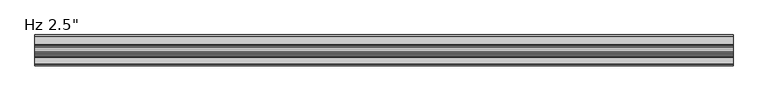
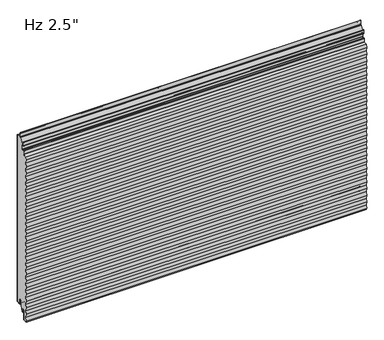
"""IFC4 building model written with IfcOpenShell, lengths in millimetres: plate geometry."""

from ifc_helpers import new_model, si_unit, point, frame, frame_2d, origin, place, context, project, spatial, polyline, circle_curve, ellipse_curve, trimmed, segment, composite_curve, outline, extrude, source, transform, mapped, element, save
from ifc_brep_helpers import plane_surface, cylinder_surface, revolved_surface, extruded_surface, advanced_brep


def plate_3a640c50(model_context):
    return source(origin(), model_context, "Body", "SolidModel", [
        extrude(outline(composite_curve([segment(trimmed(circle_curve(frame_2d((-21.43125, 19.05)), 4.96875), [point((-16.4625, 19.05))], [point((-26.4, 19.05))], True, "CARTESIAN"), True, "CONTINUOUS"), segment(polyline([(-26.4, 19.05), (-26.4, -3.1323422), (-36.5157227, -23.01875), (-38.1, -23.01875), (-38.1, -13.5080174), (-38.89375, -13.5080174), (-38.6875, -11.9205174)]), True, "CONTINUOUS"), segment(trimmed(circle_curve(frame_2d((-43.65625, -11.9205174)), 4.96875), [point((-38.6875, -11.9205174))], [point((-48.625, -11.9205174))], True, "CARTESIAN"), True, "CONTINUOUS"), segment(polyline([(-48.625, -11.9205174), (-48.625, -50.1038221)]), True, "CONTINUOUS"), segment(trimmed(circle_curve(frame_2d((-50.00625, -50.1038221)), 1.38125), [point((-48.625, -50.1038221))], [point((-49.933961, -51.4831791))], False, "CARTESIAN"), True, "CONTINUOUS"), segment(polyline([(-49.933961, -51.4831791), (-63.1062471, -52.1735094), (-63.6378194, -48.8511825), (-61.1994194, -33.6111825), (-63.6378194, -18.3711825), (-61.1994194, -3.1311825), (-63.6378194, 12.1088175), (-61.1994194, 27.3488175), (-63.6378194, 42.5888175), (-61.1994194, 57.8288175), (-63.6378194, 73.0688175), (-61.1994194, 88.3088175), (-63.6378194, 103.5488175), (-61.1994194, 118.7888175), (-63.6378194, 134.0288175), (-61.1994194, 149.2688175), (-63.6378194, 164.5088175), (-61.1994194, 179.7488175), (-63.6378194, 194.9888175), (-61.1994194, 210.2288175), (-63.6378194, 225.4688175), (-61.1994194, 240.7088175), (-63.6378194, 255.9488175), (-61.1994194, 271.1888175), (-63.6378194, 286.4288175), (-61.1994194, 301.6688175), (-63.6378194, 316.9088175), (-61.1994194, 332.1488175), (-63.6378194, 347.3888175), (-61.1994194, 362.6288175), (-63.6378194, 377.8688175), (-61.1994194, 393.1088175), (-63.6378194, 408.3488175), (-61.1994194, 423.5888175), (-63.6378194, 438.8288175), (-61.1994194, 454.0688175), (-63.6378194, 469.3088175), (-61.1994194, 484.5488175), (-63.6378194, 499.7888175), (-61.1994194, 515.0288175), (-63.6378194, 530.2688175), (-61.1994194, 545.5088175), (-63.6378194, 560.7488175), (-61.1994194, 575.9888175), (-63.6378194, 591.2288175), (-61.1994194, 606.4688175), (-63.6378194, 621.7088175), (-61.1994194, 636.9488175), (-63.6378194, 652.1888175), (-61.1994194, 667.4288175), (-63.6378194, 682.6688175), (-61.6326745, 695.2009726), (-47.4895807, 695.9421807)]), True, "CONTINUOUS"), segment(trimmed(circle_curve(frame_2d((-47.625, 698.5261347)), 2.5875), [point((-47.4895807, 695.9421807))], [point((-45.0375, 698.5261347))], True, "CARTESIAN"), True, "CONTINUOUS"), segment(polyline([(-45.0375, 698.5261347), (-45.0375, 712.6824411)]), True, "CONTINUOUS"), segment(trimmed(circle_curve(frame_2d((-43.65625, 712.6824411)), 1.38125), [point((-45.0375, 712.6824411))], [point((-43.728539, 714.0617981))], False, "CARTESIAN"), True, "CONTINUOUS"), segment(polyline([(-43.728539, 714.0617981), (-37.9645807, 714.3638744)]), True, "CONTINUOUS"), segment(trimmed(circle_curve(frame_2d((-38.1, 716.9478283)), 2.5875), [point((-37.9645807, 714.3638744))], [point((-35.5125, 716.9478283))], True, "CARTESIAN"), True, "CONTINUOUS"), segment(polyline([(-35.5125, 716.9478283), (-35.5125, 739.3892934), (-24.9057308, 760.20625), (-2.38125, 760.20625)]), True, "CONTINUOUS"), segment(trimmed(circle_curve(frame_2d((-2.38125, 758.825)), 1.38125), [point((-2.38125, 760.20625))], [point((-1.0, 758.825))], False, "CARTESIAN"), True, "CONTINUOUS"), segment(polyline([(-1.0, 758.825), (-1.0, 3.175)]), True, "CONTINUOUS"), segment(trimmed(circle_curve(frame_2d((-2.38125, 3.175)), 1.38125), [point((-1.0, 3.175))], [point((-2.38125, 1.79375))], False, "CARTESIAN"), True, "CONTINUOUS"), segment(polyline([(-2.38125, 1.79375), (-15.08125, 1.79375)]), True, "CONTINUOUS"), segment(trimmed(circle_curve(frame_2d((-15.08125, 3.175)), 1.38125), [point((-15.08125, 1.79375))], [point((-16.4625, 3.175))], False, "CARTESIAN"), True, "CONTINUOUS"), segment(polyline([(-16.4625, 3.175), (-16.4625, 19.05)]), True, "CONTINUOUS")], self_intersect=False)), frame((-730.0, 0.0, 0.0), z_axis=(1.0, 0.0, 0.0), x_axis=(0.0, 1.0, 0.0)), (0.0, 0.0, 1.0), 1460.0),
        extrude(outline(composite_curve([segment(polyline([(-25.4, 0.79375), (-26.4, 0.79375), (-26.4, 19.05)]), True, "CONTINUOUS"), segment(trimmed(circle_curve(frame_2d((-21.43125, 19.05)), 4.96875), [point((-26.4, 19.05))], [point((-16.4625, 19.05))], False, "CARTESIAN"), True, "CONTINUOUS"), segment(polyline([(-16.4625, 19.05), (-16.4625, 3.175)]), True, "CONTINUOUS"), segment(trimmed(circle_curve(frame_2d((-15.08125, 3.175)), 1.38125), [point((-16.4625, 3.175))], [point((-15.08125, 1.79375))], True, "CARTESIAN"), True, "CONTINUOUS"), segment(polyline([(-15.08125, 1.79375), (-2.38125, 1.79375)]), True, "CONTINUOUS"), segment(trimmed(circle_curve(frame_2d((-2.38125, 3.175)), 1.38125), [point((-2.38125, 1.79375))], [point((-1.0, 3.175))], True, "CARTESIAN"), True, "CONTINUOUS"), segment(polyline([(-1.0, 3.175), (-1.0, 758.825)]), True, "CONTINUOUS"), segment(trimmed(circle_curve(frame_2d((-2.38125, 758.825)), 1.38125), [point((-1.0, 758.825))], [point((-2.38125, 760.20625))], True, "CARTESIAN"), True, "CONTINUOUS"), segment(polyline([(-2.38125, 760.20625), (-19.446875, 760.20625)]), True, "CONTINUOUS"), segment(trimmed(circle_curve(frame_2d((-19.446875, 762.79375)), 2.5875), [point((-19.446875, 760.20625))], [point((-22.034375, 762.79375))], False, "CARTESIAN"), True, "CONTINUOUS"), segment(polyline([(-22.034375, 762.79375), (-22.034375, 780.25625), (-21.034375, 780.25625), (-21.034375, 762.79375)]), True, "CONTINUOUS"), segment(trimmed(circle_curve(frame_2d((-19.446875, 762.79375)), 1.5875), [point((-21.034375, 762.79375))], [point((-19.446875, 761.20625))], True, "CARTESIAN"), True, "CONTINUOUS"), segment(polyline([(-19.446875, 761.20625), (-2.38125, 761.20625)]), True, "CONTINUOUS"), segment(trimmed(circle_curve(frame_2d((-2.38125, 758.825)), 2.38125), [point((-2.38125, 761.20625))], [point((0.0, 758.825))], False, "CARTESIAN"), True, "CONTINUOUS"), segment(polyline([(0.0, 758.825), (0.0, 3.175)]), True, "CONTINUOUS"), segment(trimmed(circle_curve(frame_2d((-2.38125, 3.175)), 2.38125), [point((0.0, 3.175))], [point((-2.38125, 0.79375))], False, "CARTESIAN"), True, "CONTINUOUS"), segment(polyline([(-2.38125, 0.79375), (-15.08125, 0.79375)]), True, "CONTINUOUS"), segment(trimmed(circle_curve(frame_2d((-15.08125, 3.175)), 2.38125), [point((-15.08125, 0.79375))], [point((-17.4625, 3.175))], False, "CARTESIAN"), True, "CONTINUOUS"), segment(polyline([(-17.4625, 3.175), (-17.4625, 19.05)]), True, "CONTINUOUS"), segment(trimmed(circle_curve(frame_2d((-21.43125, 19.05)), 3.96875), [point((-17.4625, 19.05))], [point((-25.4, 19.05))], True, "CARTESIAN"), True, "CONTINUOUS"), segment(polyline([(-25.4, 19.05), (-25.4, 0.79375)]), True, "CONTINUOUS")], self_intersect=False)), frame((-730.0, 0.0, 0.0), z_axis=(1.0, 0.0, 0.0), x_axis=(0.0, 1.0, 0.0)), (0.0, 0.0, 1.0), 1460.0),
        advanced_brep(
        [(-730.0, -38.1, -23.2314549), (-730.0, -39.6875, -23.2314549), (-730.0, -39.6875, -11.9205174), (-730.0, -47.625, -11.9205174), (-730.0, -47.625, -50.1038221), (-730.0, -49.881625, -52.4818086), (-730.0, -64.0543553, -53.22457), (-730.0, -64.7509395, -48.8709186), (-730.0, -62.3125395, -33.6309186), (-730.0, -64.7509395, -18.3909186), (-730.0, -62.3125395, -3.1509186), (-730.0, -64.7509395, 12.0890814), (-730.0, -62.3125395, 27.3290814), (-730.0, -64.7509395, 42.5690814), (-730.0, -62.3125395, 57.8090814), (-730.0, -64.7509395, 73.0490814), (-730.0, -62.3125395, 88.2890814), (-730.0, -64.7509395, 103.5290814), (-730.0, -62.3125395, 118.7690814), (-730.0, -64.7509395, 134.0090814), (-730.0, -62.3125395, 149.2490814), (-730.0, -64.7509395, 164.4890814), (-730.0, -62.3125395, 179.7290814), (-730.0, -64.7509395, 194.9690814), (-730.0, -62.3125395, 210.2090814), (-730.0, -64.7509395, 225.4490814), (-730.0, -62.3125395, 240.6890814), (-730.0, -64.7509395, 255.9290814), (-730.0, -62.3125395, 271.1690814), (-730.0, -64.7509395, 286.4090814), (-730.0, -62.3125395, 301.6490814), (-730.0, -64.7509395, 316.8890814), (-730.0, -62.3125395, 332.1290814), (-730.0, -64.7509395, 347.3690814), (-730.0, -62.3125395, 362.6090814), (-730.0, -64.7509395, 377.8490814), (-730.0, -62.3125395, 393.0890814), (-730.0, -64.7509395, 408.3290814), (-730.0, -62.3125395, 423.5690814), (-730.0, -64.7509395, 438.8090814), (-730.0, -62.3125395, 454.0490814), (-730.0, -64.7509395, 469.2890814), (-730.0, -62.3125395, 484.5290814), (-730.0, -64.7509395, 499.7690814), (-730.0, -62.3125395, 515.0090814), (-730.0, -64.7509395, 530.2490814), (-730.0, -62.3125395, 545.4890814), (-730.0, -64.7509395, 560.7290814), (-730.0, -62.3125395, 575.9690814), (-730.0, -64.7509395, 591.2090814), (-730.0, -62.3125395, 606.4490814), (-730.0, -64.7509395, 621.6890814), (-730.0, -62.3125395, 636.9290814), (-730.0, -64.7509395, 652.1690814), (-730.0, -62.3125395, 667.4090814), (-730.0, -64.7428368, 682.5984395), (-730.0, -62.574106, 696.1530066), (-730.0, -47.5419167, 696.9408103), (-730.0, -46.0375, 698.5261347), (-730.0, -46.0375, 712.6824411), (-730.0, -43.780875, 715.0604276), (-730.0, -38.0169167, 715.3625039), (-730.0, -36.5125, 716.9478283), (-730.0, -36.5125, 731.8232326), (-730.0, -38.1, 733.4107326), (-730.0, -42.2671875, 733.4107326), (-730.0, -44.6484375, 735.7919826), (-730.0, -44.6484375, 750.2836032), (-730.0, -42.8546875, 750.2836032), (-730.0, -42.8546875, 740.5544826), (-730.0, -43.6484375, 740.5544826), (-730.0, -43.6484375, 735.7919826), (-730.0, -42.2671875, 734.4107326), (-730.0, -38.1, 734.4107326), (-730.0, -35.5125, 731.8232326), (-730.0, -35.5125, 716.9478283), (-730.0, -37.9645807, 714.3638744), (-730.0, -43.728539, 714.0617981), (-730.0, -45.0375, 712.6824411), (-730.0, -45.0375, 698.5261347), (-730.0, -47.4895807, 695.9421807), (-730.0, -61.7143976, 695.1966897), (-730.0, -63.7301177, 682.5984395), (-730.0, -61.2998204, 667.4090814), (-730.0, -63.7382204, 652.1690814), (-730.0, -61.2998204, 636.9290814), (-730.0, -63.7382204, 621.6890814), (-730.0, -61.2998204, 606.4490814), (-730.0, -63.7382204, 591.2090814), (-730.0, -61.2998204, 575.9690814), (-730.0, -63.7382204, 560.7290814), (-730.0, -61.2998204, 545.4890814), (-730.0, -63.7382204, 530.2490814), (-730.0, -61.2998204, 515.0090814), (-730.0, -63.7382204, 499.7690814), (-730.0, -61.2998204, 484.5290814), (-730.0, -63.7382204, 469.2890814), (-730.0, -61.2998204, 454.0490814), (-730.0, -63.7382204, 438.8090814), (-730.0, -61.2998204, 423.5690814), (-730.0, -63.7382204, 408.3290814), (-730.0, -61.2998204, 393.0890814), (-730.0, -63.7382204, 377.8490814), (-730.0, -61.2998204, 362.6090814), (-730.0, -63.7382204, 347.3690814), (-730.0, -61.2998204, 332.1290814), (-730.0, -63.7382204, 316.8890814), (-730.0, -61.2998204, 301.6490814), (-730.0, -63.7382204, 286.4090814), (-730.0, -61.2998204, 271.1690814), (-730.0, -63.7382204, 255.9290814), (-730.0, -61.2998204, 240.6890814), (-730.0, -63.7382204, 225.4490814), (-730.0, -61.2998204, 210.2090814), (-730.0, -63.7382204, 194.9690814), (-730.0, -61.2998204, 179.7290814), (-730.0, -63.7382204, 164.4890814), (-730.0, -61.2998204, 149.2490814), (-730.0, -63.7382204, 134.0090814), (-730.0, -61.2998204, 118.7690814), (-730.0, -63.7382204, 103.5290814), (-730.0, -61.2998204, 88.2890814), (-730.0, -63.7382204, 73.0490814), (-730.0, -61.2998204, 57.8090814), (-730.0, -63.7382204, 42.5690814), (-730.0, -61.2998204, 27.3290814), (-730.0, -63.7382204, 12.0890814), (-730.0, -61.2998204, -3.1509186), (-730.0, -63.7382204, -18.3909186), (-730.0, -61.2998204, -33.6309186), (-730.0, -63.7382204, -48.8709186), (-730.0, -63.2089447, -52.1788915), (-730.0, -49.933961, -51.4831791), (-730.0, -48.625, -50.1038221), (-730.0, -48.625, -11.9205174), (-730.0, -38.6875, -11.9205174), (-730.0, -38.89375, -13.5080174), (-730.0, -38.1, -13.5080174), (730.0, -38.1, -23.2314549), (730.0, -38.1, -13.5080174), (730.0, -38.89375, -13.5080174), (730.0, -38.6875, -11.9205174), (730.0, -48.625, -11.9205174), (730.0, -48.625, -50.1038221), (730.0, -49.933961, -51.4831791), (730.0, -63.2089447, -52.1788915), (730.0, -63.7382204, -48.8709186), (730.0, -61.2998204, -33.6309186), (730.0, -63.7382204, -18.3909186), (730.0, -61.2998204, -3.1509186), (730.0, -63.7382204, 12.0890814), (730.0, -61.2998204, 27.3290814), (730.0, -63.7382204, 42.5690814), (730.0, -61.2998204, 57.8090814), (730.0, -63.7382204, 73.0490814), (730.0, -61.2998204, 88.2890814), (730.0, -63.7382204, 103.5290814), (730.0, -61.2998204, 118.7690814), (730.0, -63.7382204, 134.0090814), (730.0, -61.2998204, 149.2490814), (730.0, -63.7382204, 164.4890814), (730.0, -61.2998204, 179.7290814), (730.0, -63.7382204, 194.9690814), (730.0, -61.2998204, 210.2090814), (730.0, -63.7382204, 225.4490814), (730.0, -61.2998204, 240.6890814), (730.0, -63.7382204, 255.9290814), (730.0, -61.2998204, 271.1690814), (730.0, -63.7382204, 286.4090814), (730.0, -61.2998204, 301.6490814), (730.0, -63.7382204, 316.8890814), (730.0, -61.2998204, 332.1290814), (730.0, -63.7382204, 347.3690814), (730.0, -61.2998204, 362.6090814), (730.0, -63.7382204, 377.8490814), (730.0, -61.2998204, 393.0890814), (730.0, -63.7382204, 408.3290814), (730.0, -61.2998204, 423.5690814), (730.0, -63.7382204, 438.8090814), (730.0, -61.2998204, 454.0490814), (730.0, -63.7382204, 469.2890814), (730.0, -61.2998204, 484.5290814), (730.0, -63.7382204, 499.7690814), (730.0, -61.2998204, 515.0090814), (730.0, -63.7382204, 530.2490814), (730.0, -61.2998204, 545.4890814), (730.0, -63.7382204, 560.7290814), (730.0, -61.2998204, 575.9690814), (730.0, -63.7382204, 591.2090814), (730.0, -61.2998204, 606.4490814), (730.0, -63.7382204, 621.6890814), (730.0, -61.2998204, 636.9290814), (730.0, -63.7382204, 652.1690814), (730.0, -61.2998204, 667.4090814), (730.0, -63.7301177, 682.5984395), (730.0, -61.7143976, 695.1966897), (730.0, -47.4895807, 695.9421807), (730.0, -45.0375, 698.5261347), (730.0, -45.0375, 712.6824411), (730.0, -43.728539, 714.0617981), (730.0, -37.9645807, 714.3638744), (730.0, -35.5125, 716.9478283), (730.0, -35.5125, 731.8232326), (730.0, -38.1, 734.4107326), (730.0, -42.2671875, 734.4107326), (730.0, -43.6484375, 735.7919826), (730.0, -43.6484375, 740.5544826), (730.0, -42.8546875, 740.5544826), (730.0, -42.8546875, 750.2836032), (730.0, -44.6484375, 750.2836032), (730.0, -44.6484375, 735.7919826), (730.0, -42.2671875, 733.4107326), (730.0, -38.1, 733.4107326), (730.0, -36.5125, 731.8232326), (730.0, -36.5125, 716.9478283), (730.0, -38.0169167, 715.3625039), (730.0, -43.780875, 715.0604276), (730.0, -46.0375, 712.6824411), (730.0, -46.0375, 698.5261347), (730.0, -47.5419167, 696.9408103), (730.0, -62.574106, 696.1530066), (730.0, -64.7428368, 682.5984395), (730.0, -62.3125395, 667.4090814), (730.0, -64.7509395, 652.1690814), (730.0, -62.3125395, 636.9290814), (730.0, -64.7509395, 621.6890814), (730.0, -62.3125395, 606.4490814), (730.0, -64.7509395, 591.2090814), (730.0, -62.3125395, 575.9690814), (730.0, -64.7509395, 560.7290814), (730.0, -62.3125395, 545.4890814), (730.0, -64.7509395, 530.2490814), (730.0, -62.3125395, 515.0090814), (730.0, -64.7509395, 499.7690814), (730.0, -62.3125395, 484.5290814), (730.0, -64.7509395, 469.2890814), (730.0, -62.3125395, 454.0490814), (730.0, -64.7509395, 438.8090814), (730.0, -62.3125395, 423.5690814), (730.0, -64.7509395, 408.3290814), (730.0, -62.3125395, 393.0890814), (730.0, -64.7509395, 377.8490814), (730.0, -62.3125395, 362.6090814), (730.0, -64.7509395, 347.3690814), (730.0, -62.3125395, 332.1290814), (730.0, -64.7509395, 316.8890814), (730.0, -62.3125395, 301.6490814), (730.0, -64.7509395, 286.4090814), (730.0, -62.3125395, 271.1690814), (730.0, -64.7509395, 255.9290814), (730.0, -62.3125395, 240.6890814), (730.0, -64.7509395, 225.4490814), (730.0, -62.3125395, 210.2090814), (730.0, -64.7509395, 194.9690814), (730.0, -62.3125395, 179.7290814), (730.0, -64.7509395, 164.4890814), (730.0, -62.3125395, 149.2490814), (730.0, -64.7509395, 134.0090814), (730.0, -62.3125395, 118.7690814), (730.0, -64.7509395, 103.5290814), (730.0, -62.3125395, 88.2890814), (730.0, -64.7509395, 73.0490814), (730.0, -62.3125395, 57.8090814), (730.0, -64.7509395, 42.5690814), (730.0, -62.3125395, 27.3290814), (730.0, -64.7509395, 12.0890814), (730.0, -62.3125395, -3.1509186), (730.0, -64.7509395, -18.3909186), (730.0, -62.3125395, -33.6309186), (730.0, -64.7509395, -48.8709186), (730.0, -64.0543553, -53.22457), (730.0, -49.881625, -52.4818086), (730.0, -47.625, -50.1038221), (730.0, -47.625, -11.9205174), (730.0, -39.6875, -11.9205174), (730.0, -39.6875, -23.2314549)],
        [
            (0, 1, circle_curve(frame((-730.0, -38.89375, -23.2314549), z_axis=(-1.0, 0.0, 0.0), x_axis=(0.0, 0.0, -1.0)), 0.79375)),
            (1, 2),
            (2, 3, circle_curve(frame((-730.0, -43.65625, -11.9205174), z_axis=(1.0, 0.0, 0.0), x_axis=(0.0, 0.0, -1.0)), 3.96875)),
            (3, 4),
            (4, 5, circle_curve(frame((-730.0, -50.00625, -50.1038221), z_axis=(-1.0, 0.0, 0.0), x_axis=(0.0, 0.0, -1.0)), 2.38125)),
            (5, 6),
            (6, 7),
            (7, 8),
            (8, 9),
            (9, 10),
            (10, 11),
            (11, 12),
            (12, 13),
            (13, 14),
            (14, 15),
            (15, 16),
            (16, 17),
            (17, 18),
            (18, 19),
            (19, 20),
            (20, 21),
            (21, 22),
            (22, 23),
            (23, 24),
            (24, 25),
            (25, 26),
            (26, 27),
            (27, 28),
            (28, 29),
            (29, 30),
            (30, 31),
            (31, 32),
            (32, 33),
            (33, 34),
            (34, 35),
            (35, 36),
            (36, 37),
            (37, 38),
            (38, 39),
            (39, 40),
            (40, 41),
            (41, 42),
            (42, 43),
            (43, 44),
            (44, 45),
            (45, 46),
            (46, 47),
            (47, 48),
            (48, 49),
            (49, 50),
            (50, 51),
            (51, 52),
            (52, 53),
            (53, 54),
            (54, 55),
            (55, 56),
            (56, 57),
            (57, 58, circle_curve(frame((-730.0, -47.625, 698.5261347), z_axis=(1.0, 0.0, 0.0), x_axis=(0.0, 0.0, -1.0)), 1.5875)),
            (58, 59),
            (59, 60, circle_curve(frame((-730.0, -43.65625, 712.6824411), z_axis=(-1.0, 0.0, 0.0), x_axis=(0.0, 0.0, -1.0)), 2.38125)),
            (60, 61),
            (61, 62, circle_curve(frame((-730.0, -38.1, 716.9478283), z_axis=(1.0, 0.0, 0.0), x_axis=(0.0, 0.0, -1.0)), 1.5875)),
            (62, 63),
            (63, 64, circle_curve(frame((-730.0, -38.1, 731.8232326), z_axis=(1.0, 0.0, 0.0), x_axis=(0.0, 0.0, -1.0)), 1.5875)),
            (64, 65),
            (65, 66, circle_curve(frame((-730.0, -42.2671875, 735.7919826), z_axis=(-1.0, 0.0, 0.0), x_axis=(0.0, 0.0, -1.0)), 2.38125)),
            (66, 67),
            (67, 68, ellipse_curve(frame((-730.0, -43.7515625, 750.2836032), z_axis=(-1.0, 0.0, 0.0), x_axis=(0.0, 1.0, 0.0)), 0.896875, 0.7852275)),
            (68, 69),
            (69, 70),
            (70, 71),
            (71, 72, circle_curve(frame((-730.0, -42.2671875, 735.7919826), z_axis=(1.0, 0.0, 0.0), x_axis=(0.0, 0.0, -1.0)), 1.38125)),
            (72, 73),
            (73, 74, circle_curve(frame((-730.0, -38.1, 731.8232326), z_axis=(-1.0, 0.0, 0.0), x_axis=(0.0, 0.0, -1.0)), 2.5875)),
            (74, 75),
            (75, 76, circle_curve(frame((-730.0, -38.1, 716.9478283), z_axis=(-1.0, 0.0, 0.0), x_axis=(0.0, 0.0, -1.0)), 2.5875)),
            (76, 77),
            (77, 78, circle_curve(frame((-730.0, -43.65625, 712.6824411), z_axis=(1.0, 0.0, 0.0), x_axis=(0.0, 0.0, -1.0)), 1.38125)),
            (78, 79),
            (79, 80, circle_curve(frame((-730.0, -47.625, 698.5261347), z_axis=(-1.0, 0.0, 0.0), x_axis=(0.0, 0.0, -1.0)), 2.5875)),
            (80, 81),
            (81, 82),
            (82, 83),
            (83, 84),
            (84, 85),
            (85, 86),
            (86, 87),
            (87, 88),
            (88, 89),
            (89, 90),
            (90, 91),
            (91, 92),
            (92, 93),
            (93, 94),
            (94, 95),
            (95, 96),
            (96, 97),
            (97, 98),
            (98, 99),
            (99, 100),
            (100, 101),
            (101, 102),
            (102, 103),
            (103, 104),
            (104, 105),
            (105, 106),
            (106, 107),
            (107, 108),
            (108, 109),
            (109, 110),
            (110, 111),
            (111, 112),
            (112, 113),
            (113, 114),
            (114, 115),
            (115, 116),
            (116, 117),
            (117, 118),
            (118, 119),
            (119, 120),
            (120, 121),
            (121, 122),
            (122, 123),
            (123, 124),
            (124, 125),
            (125, 126),
            (126, 127),
            (127, 128),
            (128, 129),
            (129, 130),
            (130, 131),
            (131, 132),
            (132, 133, circle_curve(frame((-730.0, -50.00625, -50.1038221), z_axis=(1.0, 0.0, 0.0), x_axis=(0.0, 0.0, -1.0)), 1.38125)),
            (133, 134),
            (134, 135, circle_curve(frame((-730.0, -43.65625, -11.9205174), z_axis=(-1.0, 0.0, 0.0), x_axis=(0.0, 0.0, -1.0)), 4.96875)),
            (135, 136),
            (136, 137),
            (137, 0),
            (138, 139),
            (139, 140),
            (140, 141),
            (141, 142, circle_curve(frame((730.0, -43.65625, -11.9205174), z_axis=(1.0, 0.0, 0.0), x_axis=(0.0, 0.0, -1.0)), 4.96875)),
            (142, 143),
            (143, 144, circle_curve(frame((730.0, -50.00625, -50.1038221), z_axis=(-1.0, 0.0, 0.0), x_axis=(0.0, 0.0, -1.0)), 1.38125)),
            (144, 145),
            (145, 146),
            (146, 147),
            (147, 148),
            (148, 149),
            (149, 150),
            (150, 151),
            (151, 152),
            (152, 153),
            (153, 154),
            (154, 155),
            (155, 156),
            (156, 157),
            (157, 158),
            (158, 159),
            (159, 160),
            (160, 161),
            (161, 162),
            (162, 163),
            (163, 164),
            (164, 165),
            (165, 166),
            (166, 167),
            (167, 168),
            (168, 169),
            (169, 170),
            (170, 171),
            (171, 172),
            (172, 173),
            (173, 174),
            (174, 175),
            (175, 176),
            (176, 177),
            (177, 178),
            (178, 179),
            (179, 180),
            (180, 181),
            (181, 182),
            (182, 183),
            (183, 184),
            (184, 185),
            (185, 186),
            (186, 187),
            (187, 188),
            (188, 189),
            (189, 190),
            (190, 191),
            (191, 192),
            (192, 193),
            (193, 194),
            (194, 195),
            (195, 196),
            (196, 197, circle_curve(frame((730.0, -47.625, 698.5261347), z_axis=(1.0, 0.0, 0.0), x_axis=(0.0, 0.0, -1.0)), 2.5875)),
            (197, 198),
            (198, 199, circle_curve(frame((730.0, -43.65625, 712.6824411), z_axis=(-1.0, 0.0, 0.0), x_axis=(0.0, 0.0, -1.0)), 1.38125)),
            (199, 200),
            (200, 201, circle_curve(frame((730.0, -38.1, 716.9478283), z_axis=(1.0, 0.0, 0.0), x_axis=(0.0, 0.0, -1.0)), 2.5875)),
            (201, 202),
            (202, 203, circle_curve(frame((730.0, -38.1, 731.8232326), z_axis=(1.0, 0.0, 0.0), x_axis=(0.0, 0.0, -1.0)), 2.5875)),
            (203, 204),
            (204, 205, circle_curve(frame((730.0, -42.2671875, 735.7919826), z_axis=(-1.0, 0.0, 0.0), x_axis=(0.0, 0.0, -1.0)), 1.38125)),
            (205, 206),
            (206, 207),
            (207, 208),
            (208, 209, ellipse_curve(frame((730.0, -43.7515625, 750.2836032), z_axis=(1.0, 0.0, 0.0), x_axis=(0.0, 1.0, 0.0)), 0.896875, 0.7852275)),
            (209, 210),
            (210, 211, circle_curve(frame((730.0, -42.2671875, 735.7919826), z_axis=(1.0, 0.0, 0.0), x_axis=(0.0, 0.0, -1.0)), 2.38125)),
            (211, 212),
            (212, 213, circle_curve(frame((730.0, -38.1, 731.8232326), z_axis=(-1.0, 0.0, 0.0), x_axis=(0.0, 0.0, -1.0)), 1.5875)),
            (213, 214),
            (214, 215, circle_curve(frame((730.0, -38.1, 716.9478283), z_axis=(-1.0, 0.0, 0.0), x_axis=(0.0, 0.0, -1.0)), 1.5875)),
            (215, 216),
            (216, 217, circle_curve(frame((730.0, -43.65625, 712.6824411), z_axis=(1.0, 0.0, 0.0), x_axis=(0.0, 0.0, -1.0)), 2.38125)),
            (217, 218),
            (218, 219, circle_curve(frame((730.0, -47.625, 698.5261347), z_axis=(-1.0, 0.0, 0.0), x_axis=(0.0, 0.0, -1.0)), 1.5875)),
            (219, 220),
            (220, 221),
            (221, 222),
            (222, 223),
            (223, 224),
            (224, 225),
            (225, 226),
            (226, 227),
            (227, 228),
            (228, 229),
            (229, 230),
            (230, 231),
            (231, 232),
            (232, 233),
            (233, 234),
            (234, 235),
            (235, 236),
            (236, 237),
            (237, 238),
            (238, 239),
            (239, 240),
            (240, 241),
            (241, 242),
            (242, 243),
            (243, 244),
            (244, 245),
            (245, 246),
            (246, 247),
            (247, 248),
            (248, 249),
            (249, 250),
            (250, 251),
            (251, 252),
            (252, 253),
            (253, 254),
            (254, 255),
            (255, 256),
            (256, 257),
            (257, 258),
            (258, 259),
            (259, 260),
            (260, 261),
            (261, 262),
            (262, 263),
            (263, 264),
            (264, 265),
            (265, 266),
            (266, 267),
            (267, 268),
            (268, 269),
            (269, 270),
            (270, 271),
            (271, 272, circle_curve(frame((730.0, -50.00625, -50.1038221), z_axis=(1.0, 0.0, 0.0), x_axis=(0.0, 0.0, -1.0)), 2.38125)),
            (272, 273),
            (273, 274, circle_curve(frame((730.0, -43.65625, -11.9205174), z_axis=(-1.0, 0.0, 0.0), x_axis=(0.0, 0.0, -1.0)), 3.96875)),
            (274, 275),
            (275, 138, circle_curve(frame((730.0, -38.89375, -23.2314549), z_axis=(1.0, 0.0, 0.0), x_axis=(0.0, 0.0, -1.0)), 0.79375)),
            (118, 158),
            (157, 119),
            (156, 120),
            (155, 121),
            (131, 145),
            (144, 132),
            (143, 133),
            (142, 134),
            (141, 135),
            (136, 140),
            (139, 137),
            (69, 207),
            (206, 70),
            (68, 208),
            (67, 209),
            (56, 220),
            (219, 57),
            (80, 196),
            (195, 81),
            (54, 222),
            (221, 55),
            (82, 194),
            (193, 83),
            (192, 84),
            (191, 85),
            (21, 255),
            (254, 22),
            (253, 23),
            (252, 24),
            (251, 25),
            (250, 26),
            (249, 27),
            (102, 174),
            (173, 103),
            (172, 104),
            (171, 105),
            (170, 106),
            (169, 107),
            (168, 108),
            (167, 109),
            (166, 110),
            (248, 28),
            (247, 29),
            (246, 30),
            (52, 224),
            (223, 53),
            (165, 111),
            (164, 112),
            (163, 113),
            (162, 114),
            (161, 115),
            (160, 116),
            (159, 117),
            (19, 257),
            (256, 20),
            (51, 225),
            (50, 226),
            (190, 86),
            (48, 228),
            (227, 49),
            (46, 230),
            (229, 47),
            (44, 232),
            (231, 45),
            (93, 183),
            (182, 94),
            (43, 233),
            (91, 185),
            (184, 92),
            (89, 187),
            (186, 90),
            (87, 189),
            (188, 88),
            (42, 234),
            (40, 236),
            (235, 41),
            (38, 238),
            (237, 39),
            (36, 240),
            (239, 37),
            (101, 175),
            (35, 241),
            (99, 177),
            (176, 100),
            (97, 179),
            (178, 98),
            (95, 181),
            (180, 96),
            (34, 242),
            (32, 244),
            (243, 33),
            (245, 31),
            (18, 258),
            (16, 260),
            (259, 17),
            (14, 262),
            (261, 15),
            (12, 264),
            (263, 13),
            (10, 266),
            (265, 11),
            (8, 268),
            (267, 9),
            (6, 270),
            (269, 7),
            (129, 147),
            (146, 130),
            (127, 149),
            (148, 128),
            (125, 151),
            (150, 126),
            (123, 153),
            (152, 124),
            (154, 122),
            (79, 197),
            (77, 199),
            (198, 78),
            (75, 201),
            (200, 76),
            (71, 205),
            (204, 72),
            (73, 203),
            (202, 74),
            (66, 210),
            (64, 212),
            (211, 65),
            (62, 214),
            (213, 63),
            (60, 216),
            (215, 61),
            (58, 218),
            (217, 59),
            (5, 271),
            (3, 273),
            (272, 4),
            (1, 275),
            (274, 2),
            (138, 0),
        ],
        [
            plane_surface(frame((-730.0, -63.5, 381.0), z_axis=(-1.0, 0.0, 0.0), x_axis=(0.0, -1.0, 0.0))),
            plane_surface(frame((730.0, -63.5, 381.0), z_axis=(1.0, 0.0, 0.0), x_axis=(0.0, -1.0, 0.0))),
            plane_surface(frame((-730.0, -61.2998204, 118.7690814), z_axis=(0.0, 0.9874406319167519, 0.1579905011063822), x_axis=(1.0, 0.0, 0.0))),
            plane_surface(frame((-730.0, -63.7382204, 103.5290814), z_axis=(0.0, 0.9874406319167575, -0.15799050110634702), x_axis=(1.0, 0.0, 0.0))),
            plane_surface(frame((-730.0, -61.2998204, 88.2890814), z_axis=(0.0, 0.987440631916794, 0.1579905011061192), x_axis=(1.0, 0.0, 0.0))),
            plane_surface(frame((-730.0, -49.933961, -51.4831791), z_axis=(0.0, -0.05233595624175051, 0.9986295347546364), x_axis=(1.0, 0.0, 0.0))),
            revolved_surface(polyline([(730.0, -50.00625, -51.485072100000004), (-730.0, -50.00625, -51.485072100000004)]), (-730.0, -50.00625, -50.1038221), (1.0, 0.0, 0.0)),
            plane_surface(frame((-730.0, -48.625, -11.9205174), z_axis=(0.0, -1.0, 0.0), x_axis=(1.0, 0.0, 0.0))),
            cylinder_surface(frame((-730.0, -43.65625, -11.9205174), z_axis=(-1.0, 0.0, 0.0), x_axis=(0.0, 0.0, -1.0)), 4.96875),
            plane_surface(frame((-730.0, -38.1, -13.5080174), z_axis=(0.0, 0.0, 1.0), x_axis=(1.0, 0.0, 0.0))),
            plane_surface(frame((-730.0, -38.89375, -13.5080174), z_axis=(0.0, 0.9916655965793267, -0.12883844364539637), x_axis=(1.0, 0.0, 0.0))),
            plane_surface(frame((-730.0, -43.6484375, 740.5544826), z_axis=(0.0, 0.0, -1.0), x_axis=(1.0, 0.0, 0.0))),
            plane_surface(frame((-730.0, -42.8546875, 740.5544826), z_axis=(0.0, 1.0, 0.0), x_axis=(1.0, 0.0, 0.0))),
            extruded_surface(trimmed(ellipse_curve(frame((-730.0, -43.7515625, 750.2836032), z_axis=(1.0, 0.0, 0.0), x_axis=(0.0, 1.0, 0.0)), 0.896875, 0.7852275), [point((-730.0, -42.8546875, 750.2836032))], [point((-730.0, -44.6484375, 750.2836032))], True, "CARTESIAN"), (1460.0, 0.0, 0.0), 1460.0),
            plane_surface(frame((-730.0, -47.5419167, 696.9408103), z_axis=(0.0, -0.052335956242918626, 0.9986295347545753), x_axis=(1.0, 0.0, 0.0))),
            plane_surface(frame((-730.0, -61.7143976, 695.1966897), z_axis=(0.0, 0.05233595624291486, -0.9986295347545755), x_axis=(1.0, 0.0, 0.0))),
            plane_surface(frame((-730.0, -64.7428368, 682.5984395), z_axis=(0.0, -0.9874406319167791, -0.15799050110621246), x_axis=(1.0, 0.0, 0.0))),
            plane_surface(frame((-730.0, -61.2998204, 667.4090814), z_axis=(0.0, 0.9874406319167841, 0.15799050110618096), x_axis=(1.0, 0.0, 0.0))),
            plane_surface(frame((-730.0, -63.7382204, 652.1690814), z_axis=(0.0, 0.9874406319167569, -0.15799050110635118), x_axis=(1.0, 0.0, 0.0))),
            plane_surface(frame((-730.0, -61.2998204, 636.9290814), z_axis=(0.0, 0.987440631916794, 0.15799050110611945), x_axis=(1.0, 0.0, 0.0))),
            plane_surface(frame((-730.0, -62.3125395, 179.7290814), z_axis=(0.0, -0.9874406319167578, 0.15799050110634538), x_axis=(1.0, 0.0, 0.0))),
            plane_surface(frame((-730.0, -64.7509395, 194.9690814), z_axis=(0.0, -0.9874406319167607, -0.15799050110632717), x_axis=(1.0, 0.0, 0.0))),
            plane_surface(frame((-730.0, -62.3125395, 210.2090814), z_axis=(0.0, -0.9874406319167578, 0.15799050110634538), x_axis=(1.0, 0.0, 0.0))),
            plane_surface(frame((-730.0, -64.7509395, 225.4490814), z_axis=(0.0, -0.9874406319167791, -0.15799050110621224), x_axis=(1.0, 0.0, 0.0))),
            plane_surface(frame((-730.0, -62.3125395, 240.6890814), z_axis=(0.0, -0.9874406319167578, 0.15799050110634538), x_axis=(1.0, 0.0, 0.0))),
            plane_surface(frame((-730.0, -64.7509395, 255.9290814), z_axis=(0.0, -0.9874406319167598, -0.15799050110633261), x_axis=(1.0, 0.0, 0.0))),
            plane_surface(frame((-730.0, -61.2998204, 362.6090814), z_axis=(0.0, 0.9874406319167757, 0.15799050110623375), x_axis=(1.0, 0.0, 0.0))),
            plane_surface(frame((-730.0, -63.7382204, 347.3690814), z_axis=(0.0, 0.9874406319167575, -0.15799050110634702), x_axis=(1.0, 0.0, 0.0))),
            plane_surface(frame((-730.0, -61.2998204, 332.1290814), z_axis=(0.0, 0.987440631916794, 0.1579905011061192), x_axis=(1.0, 0.0, 0.0))),
            plane_surface(frame((-730.0, -63.7382204, 316.8890814), z_axis=(0.0, 0.987440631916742, -0.15799050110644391), x_axis=(1.0, 0.0, 0.0))),
            plane_surface(frame((-730.0, -61.2998204, 301.6490814), z_axis=(0.0, 0.9874406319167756, 0.15799050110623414), x_axis=(1.0, 0.0, 0.0))),
            plane_surface(frame((-730.0, -63.7382204, 286.4090814), z_axis=(0.0, 0.9874406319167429, -0.15799050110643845), x_axis=(1.0, 0.0, 0.0))),
            plane_surface(frame((-730.0, -61.2998204, 271.1690814), z_axis=(0.0, 0.9874406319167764, 0.15799050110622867), x_axis=(1.0, 0.0, 0.0))),
            plane_surface(frame((-730.0, -63.7382204, 255.9290814), z_axis=(0.0, 0.9874406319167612, -0.1579905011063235), x_axis=(1.0, 0.0, 0.0))),
            plane_surface(frame((-730.0, -62.3125395, 271.1690814), z_axis=(0.0, -0.9874406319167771, 0.157990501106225), x_axis=(1.0, 0.0, 0.0))),
            plane_surface(frame((-730.0, -64.7509395, 286.4090814), z_axis=(0.0, -0.9874406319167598, -0.15799050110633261), x_axis=(1.0, 0.0, 0.0))),
            plane_surface(frame((-730.0, -62.3125395, 301.6490814), z_axis=(0.0, -0.9874406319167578, 0.15799050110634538), x_axis=(1.0, 0.0, 0.0))),
            plane_surface(frame((-730.0, -64.7509395, 652.1690814), z_axis=(0.0, -0.9874406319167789, -0.15799050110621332), x_axis=(1.0, 0.0, 0.0))),
            plane_surface(frame((-730.0, -62.3125395, 667.4090814), z_axis=(0.0, -0.9874406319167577, 0.15799050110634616), x_axis=(1.0, 0.0, 0.0))),
            plane_surface(frame((-730.0, -61.2998204, 240.6890814), z_axis=(0.0, 0.9874406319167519, 0.1579905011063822), x_axis=(1.0, 0.0, 0.0))),
            plane_surface(frame((-730.0, -63.7382204, 225.4490814), z_axis=(0.0, 0.9874406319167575, -0.15799050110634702), x_axis=(1.0, 0.0, 0.0))),
            plane_surface(frame((-730.0, -61.2998204, 210.2090814), z_axis=(0.0, 0.987440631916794, 0.1579905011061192), x_axis=(1.0, 0.0, 0.0))),
            plane_surface(frame((-730.0, -63.7382204, 194.9690814), z_axis=(0.0, 0.987440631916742, -0.15799050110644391), x_axis=(1.0, 0.0, 0.0))),
            plane_surface(frame((-730.0, -61.2998204, 179.7290814), z_axis=(0.0, 0.9874406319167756, 0.15799050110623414), x_axis=(1.0, 0.0, 0.0))),
            plane_surface(frame((-730.0, -63.7382204, 164.4890814), z_axis=(0.0, 0.9874406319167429, -0.15799050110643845), x_axis=(1.0, 0.0, 0.0))),
            plane_surface(frame((-730.0, -61.2998204, 149.2490814), z_axis=(0.0, 0.9874406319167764, 0.15799050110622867), x_axis=(1.0, 0.0, 0.0))),
            plane_surface(frame((-730.0, -63.7382204, 134.0090814), z_axis=(0.0, 0.9874406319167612, -0.1579905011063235), x_axis=(1.0, 0.0, 0.0))),
            plane_surface(frame((-730.0, -62.3125395, 149.2490814), z_axis=(0.0, -0.9874406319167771, 0.157990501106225), x_axis=(1.0, 0.0, 0.0))),
            plane_surface(frame((-730.0, -64.7509395, 164.4890814), z_axis=(0.0, -0.9874406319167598, -0.15799050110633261), x_axis=(1.0, 0.0, 0.0))),
            plane_surface(frame((-730.0, -62.574106, 696.1530066), z_axis=(0.0, -0.9874406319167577, 0.15799050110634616), x_axis=(1.0, 0.0, 0.0))),
            plane_surface(frame((-730.0, -62.3125395, 636.9290814), z_axis=(0.0, -0.9874406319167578, 0.15799050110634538), x_axis=(1.0, 0.0, 0.0))),
            plane_surface(frame((-730.0, -64.7509395, 621.6890814), z_axis=(0.0, -0.9874406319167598, -0.15799050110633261), x_axis=(1.0, 0.0, 0.0))),
            plane_surface(frame((-730.0, -63.7382204, 621.6890814), z_axis=(0.0, 0.9874406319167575, -0.15799050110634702), x_axis=(1.0, 0.0, 0.0))),
            plane_surface(frame((-730.0, -63.7301177, 682.5984395), z_axis=(0.0, 0.9874406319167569, -0.15799050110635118), x_axis=(1.0, 0.0, 0.0))),
            plane_surface(frame((-730.0, -64.7509395, 591.2090814), z_axis=(0.0, -0.9874406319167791, -0.15799050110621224), x_axis=(1.0, 0.0, 0.0))),
            plane_surface(frame((-730.0, -64.7509395, 560.7290814), z_axis=(0.0, -0.9874406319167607, -0.15799050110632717), x_axis=(1.0, 0.0, 0.0))),
            plane_surface(frame((-730.0, -62.3125395, 575.9690814), z_axis=(0.0, -0.9874406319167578, 0.15799050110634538), x_axis=(1.0, 0.0, 0.0))),
            plane_surface(frame((-730.0, -62.3125395, 606.4490814), z_axis=(0.0, -0.9874406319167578, 0.15799050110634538), x_axis=(1.0, 0.0, 0.0))),
            plane_surface(frame((-730.0, -64.7509395, 530.2490814), z_axis=(0.0, -0.9874406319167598, -0.15799050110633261), x_axis=(1.0, 0.0, 0.0))),
            plane_surface(frame((-730.0, -63.7382204, 499.7690814), z_axis=(0.0, 0.9874406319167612, -0.1579905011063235), x_axis=(1.0, 0.0, 0.0))),
            plane_surface(frame((-730.0, -62.3125395, 515.0090814), z_axis=(0.0, -0.9874406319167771, 0.157990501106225), x_axis=(1.0, 0.0, 0.0))),
            plane_surface(frame((-730.0, -62.3125395, 545.4890814), z_axis=(0.0, -0.9874406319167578, 0.15799050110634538), x_axis=(1.0, 0.0, 0.0))),
            plane_surface(frame((-730.0, -63.7382204, 530.2490814), z_axis=(0.0, 0.9874406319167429, -0.15799050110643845), x_axis=(1.0, 0.0, 0.0))),
            plane_surface(frame((-730.0, -63.7382204, 560.7290814), z_axis=(0.0, 0.987440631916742, -0.15799050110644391), x_axis=(1.0, 0.0, 0.0))),
            plane_surface(frame((-730.0, -61.2998204, 545.4890814), z_axis=(0.0, 0.9874406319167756, 0.15799050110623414), x_axis=(1.0, 0.0, 0.0))),
            plane_surface(frame((-730.0, -61.2998204, 515.0090814), z_axis=(0.0, 0.9874406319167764, 0.15799050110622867), x_axis=(1.0, 0.0, 0.0))),
            plane_surface(frame((-730.0, -63.7382204, 591.2090814), z_axis=(0.0, 0.9874406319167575, -0.15799050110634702), x_axis=(1.0, 0.0, 0.0))),
            plane_surface(frame((-730.0, -64.7509395, 499.7690814), z_axis=(0.0, -0.9874406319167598, -0.15799050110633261), x_axis=(1.0, 0.0, 0.0))),
            plane_surface(frame((-730.0, -61.2998204, 606.4490814), z_axis=(0.0, 0.9874406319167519, 0.1579905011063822), x_axis=(1.0, 0.0, 0.0))),
            plane_surface(frame((-730.0, -61.2998204, 575.9690814), z_axis=(0.0, 0.987440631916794, 0.1579905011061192), x_axis=(1.0, 0.0, 0.0))),
            plane_surface(frame((-730.0, -64.7509395, 469.2890814), z_axis=(0.0, -0.9874406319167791, -0.15799050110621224), x_axis=(1.0, 0.0, 0.0))),
            plane_surface(frame((-730.0, -64.7509395, 438.8090814), z_axis=(0.0, -0.9874406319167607, -0.15799050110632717), x_axis=(1.0, 0.0, 0.0))),
            plane_surface(frame((-730.0, -62.3125395, 454.0490814), z_axis=(0.0, -0.9874406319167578, 0.15799050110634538), x_axis=(1.0, 0.0, 0.0))),
            plane_surface(frame((-730.0, -62.3125395, 484.5290814), z_axis=(0.0, -0.9874406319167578, 0.15799050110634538), x_axis=(1.0, 0.0, 0.0))),
            plane_surface(frame((-730.0, -64.7509395, 408.3290814), z_axis=(0.0, -0.9874406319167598, -0.15799050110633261), x_axis=(1.0, 0.0, 0.0))),
            plane_surface(frame((-730.0, -63.7382204, 377.8490814), z_axis=(0.0, 0.9874406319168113, -0.1579905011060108), x_axis=(1.0, 0.0, 0.0))),
            plane_surface(frame((-730.0, -62.3125395, 393.0890814), z_axis=(0.0, -0.9874406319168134, 0.15799050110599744), x_axis=(1.0, 0.0, 0.0))),
            plane_surface(frame((-730.0, -62.3125395, 423.5690814), z_axis=(0.0, -0.9874406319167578, 0.15799050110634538), x_axis=(1.0, 0.0, 0.0))),
            plane_surface(frame((-730.0, -63.7382204, 408.3290814), z_axis=(0.0, 0.9874406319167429, -0.15799050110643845), x_axis=(1.0, 0.0, 0.0))),
            plane_surface(frame((-730.0, -63.7382204, 438.8090814), z_axis=(0.0, 0.987440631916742, -0.15799050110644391), x_axis=(1.0, 0.0, 0.0))),
            plane_surface(frame((-730.0, -61.2998204, 423.5690814), z_axis=(0.0, 0.9874406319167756, 0.15799050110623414), x_axis=(1.0, 0.0, 0.0))),
            plane_surface(frame((-730.0, -61.2998204, 393.0890814), z_axis=(0.0, 0.9874406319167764, 0.15799050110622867), x_axis=(1.0, 0.0, 0.0))),
            plane_surface(frame((-730.0, -63.7382204, 469.2890814), z_axis=(0.0, 0.9874406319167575, -0.15799050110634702), x_axis=(1.0, 0.0, 0.0))),
            plane_surface(frame((-730.0, -64.7509395, 377.8490814), z_axis=(0.0, -0.9874406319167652, -0.15799050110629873), x_axis=(1.0, 0.0, 0.0))),
            plane_surface(frame((-730.0, -61.2998204, 484.5290814), z_axis=(0.0, 0.9874406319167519, 0.1579905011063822), x_axis=(1.0, 0.0, 0.0))),
            plane_surface(frame((-730.0, -61.2998204, 454.0490814), z_axis=(0.0, 0.987440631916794, 0.1579905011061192), x_axis=(1.0, 0.0, 0.0))),
            plane_surface(frame((-730.0, -64.7509395, 347.3690814), z_axis=(0.0, -0.9874406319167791, -0.15799050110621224), x_axis=(1.0, 0.0, 0.0))),
            plane_surface(frame((-730.0, -64.7509395, 316.8890814), z_axis=(0.0, -0.9874406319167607, -0.15799050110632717), x_axis=(1.0, 0.0, 0.0))),
            plane_surface(frame((-730.0, -62.3125395, 332.1290814), z_axis=(0.0, -0.9874406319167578, 0.15799050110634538), x_axis=(1.0, 0.0, 0.0))),
            plane_surface(frame((-730.0, -62.3125395, 362.6090814), z_axis=(0.0, -0.9874406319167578, 0.15799050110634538), x_axis=(1.0, 0.0, 0.0))),
            plane_surface(frame((-730.0, -64.7509395, 134.0090814), z_axis=(0.0, -0.9874406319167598, -0.15799050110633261), x_axis=(1.0, 0.0, 0.0))),
            plane_surface(frame((-730.0, -64.7509395, 103.5290814), z_axis=(0.0, -0.9874406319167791, -0.15799050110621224), x_axis=(1.0, 0.0, 0.0))),
            plane_surface(frame((-730.0, -62.3125395, 118.7690814), z_axis=(0.0, -0.9874406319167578, 0.15799050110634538), x_axis=(1.0, 0.0, 0.0))),
            plane_surface(frame((-730.0, -64.7509395, 73.0490814), z_axis=(0.0, -0.9874406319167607, -0.15799050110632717), x_axis=(1.0, 0.0, 0.0))),
            plane_surface(frame((-730.0, -64.7509395, 42.5690814), z_axis=(0.0, -0.9874406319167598, -0.15799050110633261), x_axis=(1.0, 0.0, 0.0))),
            plane_surface(frame((-730.0, -62.3125395, 57.8090814), z_axis=(0.0, -0.9874406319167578, 0.15799050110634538), x_axis=(1.0, 0.0, 0.0))),
            plane_surface(frame((-730.0, -62.3125395, 88.2890814), z_axis=(0.0, -0.9874406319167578, 0.15799050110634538), x_axis=(1.0, 0.0, 0.0))),
            plane_surface(frame((-730.0, -64.7509395, 12.0890814), z_axis=(0.0, -0.9874406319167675, -0.15799050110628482), x_axis=(1.0, 0.0, 0.0))),
            plane_surface(frame((-730.0, -62.3125395, 27.3290814), z_axis=(0.0, -0.9874406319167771, 0.157990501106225), x_axis=(1.0, 0.0, 0.0))),
            plane_surface(frame((-730.0, -64.7509395, -18.3909186), z_axis=(0.0, -0.9874406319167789, -0.15799050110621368), x_axis=(1.0, 0.0, 0.0))),
            plane_surface(frame((-730.0, -64.7509395, -48.8709186), z_axis=(0.0, -0.9874406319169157, -0.15799050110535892), x_axis=(1.0, 0.0, 0.0))),
            plane_surface(frame((-730.0, -62.3125395, -33.6309186), z_axis=(0.0, -0.9874406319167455, 0.15799050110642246), x_axis=(1.0, 0.0, 0.0))),
            plane_surface(frame((-730.0, -62.3125395, -3.1509186), z_axis=(0.0, -0.9874406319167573, 0.1579905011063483), x_axis=(1.0, 0.0, 0.0))),
            plane_surface(frame((-730.0, -63.7382204, -48.8709186), z_axis=(0.0, 0.9874406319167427, -0.1579905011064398), x_axis=(1.0, 0.0, 0.0))),
            plane_surface(frame((-730.0, -63.7382204, -18.3909186), z_axis=(0.0, 0.9874406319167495, -0.15799050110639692), x_axis=(1.0, 0.0, 0.0))),
            plane_surface(frame((-730.0, -61.2998204, -33.6309186), z_axis=(0.0, 0.9874406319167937, 0.1579905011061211), x_axis=(1.0, 0.0, 0.0))),
            plane_surface(frame((-730.0, -63.2089447, -52.1788915), z_axis=(0.0, 0.9874406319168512, 0.15799050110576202), x_axis=(1.0, 0.0, 0.0))),
            plane_surface(frame((-730.0, -63.7382204, 12.0890814), z_axis=(0.0, 0.9874406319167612, -0.1579905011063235), x_axis=(1.0, 0.0, 0.0))),
            plane_surface(frame((-730.0, -61.2998204, -3.1509186), z_axis=(0.0, 0.9874406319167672, 0.15799050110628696), x_axis=(1.0, 0.0, 0.0))),
            plane_surface(frame((-730.0, -63.7382204, 42.5690814), z_axis=(0.0, 0.9874406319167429, -0.15799050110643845), x_axis=(1.0, 0.0, 0.0))),
            plane_surface(frame((-730.0, -63.7382204, 73.0490814), z_axis=(0.0, 0.987440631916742, -0.15799050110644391), x_axis=(1.0, 0.0, 0.0))),
            plane_surface(frame((-730.0, -61.2998204, 57.8090814), z_axis=(0.0, 0.9874406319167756, 0.15799050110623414), x_axis=(1.0, 0.0, 0.0))),
            plane_surface(frame((-730.0, -61.2998204, 27.3290814), z_axis=(0.0, 0.9874406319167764, 0.15799050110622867), x_axis=(1.0, 0.0, 0.0))),
            cylinder_surface(frame((-730.0, -47.625, 698.5261347), z_axis=(-1.0, 0.0, 0.0), x_axis=(0.0, 0.0, -1.0)), 2.5875),
            revolved_surface(polyline([(730.0, -43.65625, 711.3011911), (-730.0, -43.65625, 711.3011911)]), (-730.0, -43.65625, 712.6824411), (1.0, 0.0, 0.0)),
            cylinder_surface(frame((-730.0, -38.1, 716.9478283), z_axis=(-1.0, 0.0, 0.0), x_axis=(0.0, 0.0, -1.0)), 2.5875),
            plane_surface(frame((-730.0, -43.728539, 714.0617981), z_axis=(0.0, 0.052335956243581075, -0.9986295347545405), x_axis=(1.0, 0.0, 0.0))),
            plane_surface(frame((-730.0, -45.0375, 698.5261347), z_axis=(0.0, 1.0, 0.0), x_axis=(1.0, 0.0, 0.0))),
            revolved_surface(polyline([(730.0, -42.2671875, 734.4107326), (-730.0, -42.2671875, 734.4107326)]), (-730.0, -42.2671875, 735.7919826), (1.0, 0.0, 0.0)),
            cylinder_surface(frame((-730.0, -38.1, 731.8232326), z_axis=(-1.0, 0.0, 0.0), x_axis=(0.0, 0.0, -1.0)), 2.5875),
            plane_surface(frame((-730.0, -38.1, 734.4107326), z_axis=(0.0, 0.0, 1.0), x_axis=(1.0, 0.0, 0.0))),
            plane_surface(frame((-730.0, -43.6484375, 735.7919826), z_axis=(0.0, 1.0, 0.0), x_axis=(1.0, 0.0, 0.0))),
            plane_surface(frame((-730.0, -44.6484375, 750.2836032), z_axis=(0.0, -1.0, 0.0), x_axis=(1.0, 0.0, 0.0))),
            plane_surface(frame((-730.0, -42.2671875, 733.4107326), z_axis=(0.0, 0.0, -1.0), x_axis=(1.0, 0.0, 0.0))),
            cylinder_surface(frame((-730.0, -42.2671875, 735.7919826), z_axis=(-1.0, 0.0, 0.0), x_axis=(0.0, 0.0, -1.0)), 2.38125),
            plane_surface(frame((-730.0, -35.5125, 716.9478283), z_axis=(0.0, 1.0, 0.0), x_axis=(1.0, 0.0, 0.0))),
            plane_surface(frame((-730.0, -36.5125, 731.8232326), z_axis=(0.0, -1.0, 0.0), x_axis=(1.0, 0.0, 0.0))),
            plane_surface(frame((-730.0, -38.0169167, 715.3625039), z_axis=(0.0, -0.0523359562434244, 0.9986295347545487), x_axis=(1.0, 0.0, 0.0))),
            revolved_surface(polyline([(730.0, -38.1, 715.3603283), (-730.0, -38.1, 715.3603283)]), (-730.0, -38.1, 716.9478283), (1.0, 0.0, 0.0)),
            revolved_surface(polyline([(730.0, -38.1, 730.2357326), (-730.0, -38.1, 730.2357326)]), (-730.0, -38.1, 731.8232326), (1.0, 0.0, 0.0)),
            plane_surface(frame((-730.0, -46.0375, 712.6824411), z_axis=(0.0, -1.0, 0.0), x_axis=(1.0, 0.0, 0.0))),
            revolved_surface(polyline([(730.0, -47.625, 696.9386347), (-730.0, -47.625, 696.9386347)]), (-730.0, -47.625, 698.5261347), (1.0, 0.0, 0.0)),
            cylinder_surface(frame((-730.0, -43.65625, 712.6824411), z_axis=(-1.0, 0.0, 0.0), x_axis=(0.0, 0.0, -1.0)), 2.38125),
            plane_surface(frame((-730.0, -64.0543553, -53.22457), z_axis=(0.0, 0.05233595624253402, -0.9986295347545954), x_axis=(1.0, 0.0, 0.0))),
            plane_surface(frame((-730.0, -47.625, -50.1038221), z_axis=(0.0, 1.0, 0.0), x_axis=(1.0, 0.0, 0.0))),
            plane_surface(frame((-730.0, -39.6875, -11.9205174), z_axis=(0.0, -1.0, 0.0), x_axis=(1.0, 0.0, 0.0))),
            revolved_surface(polyline([(730.0, -43.65625, -15.8892674), (-730.0, -43.65625, -15.8892674)]), (-730.0, -43.65625, -11.9205174), (1.0, 0.0, 0.0)),
            cylinder_surface(frame((-730.0, -50.00625, -50.1038221), z_axis=(-1.0, 0.0, 0.0), x_axis=(0.0, 0.0, -1.0)), 2.38125),
            plane_surface(frame((-730.0, -38.1, -23.2314549), z_axis=(0.0, 1.0, 0.0), x_axis=(1.0, 0.0, 0.0))),
            cylinder_surface(frame((-730.0, -38.89375, -23.2314549), z_axis=(-1.0, 0.0, 0.0), x_axis=(0.0, 0.0, -1.0)), 0.79375),
        ],
        [
            (0, [[1, 2, 3, 4, 5, 6, 7, 8, 9, 10, 11, 12, 13, 14, 15, 16, 17, 18, 19, 20, 21, 22, 23, 24, 25, 26, 27, 28, 29, 30, 31, 32, 33, 34, 35, 36, 37, 38, 39, 40, 41, 42, 43, 44, 45, 46, 47, 48, 49, 50, 51, 52, 53, 54, 55, 56, 57, 58, 59, 60, 61, 62, 63, 64, 65, 66, 67, 68, 69, 70, 71, 72, 73, 74, 75, 76, 77, 78, 79, 80, 81, 82, 83, 84, 85, 86, 87, 88, 89, 90, 91, 92, 93, 94, 95, 96, 97, 98, 99, 100, 101, 102, 103, 104, 105, 106, 107, 108, 109, 110, 111, 112, 113, 114, 115, 116, 117, 118, 119, 120, 121, 122, 123, 124, 125, 126, 127, 128, 129, 130, 131, 132, 133, 134, 135, 136, 137, 138]]),
            (1, [[139, 140, 141, 142, 143, 144, 145, 146, 147, 148, 149, 150, 151, 152, 153, 154, 155, 156, 157, 158, 159, 160, 161, 162, 163, 164, 165, 166, 167, 168, 169, 170, 171, 172, 173, 174, 175, 176, 177, 178, 179, 180, 181, 182, 183, 184, 185, 186, 187, 188, 189, 190, 191, 192, 193, 194, 195, 196, 197, 198, 199, 200, 201, 202, 203, 204, 205, 206, 207, 208, 209, 210, 211, 212, 213, 214, 215, 216, 217, 218, 219, 220, 221, 222, 223, 224, 225, 226, 227, 228, 229, 230, 231, 232, 233, 234, 235, 236, 237, 238, 239, 240, 241, 242, 243, 244, 245, 246, 247, 248, 249, 250, 251, 252, 253, 254, 255, 256, 257, 258, 259, 260, 261, 262, 263, 264, 265, 266, 267, 268, 269, 270, 271, 272, 273, 274, 275, 276]]),
            (2, [[277, -158, 278, -119]]),
            (3, [[-278, -157, 279, -120]]),
            (4, [[-279, -156, 280, -121]]),
            (5, [[281, -145, 282, -132]]),
            (6, [[-282, -144, 283, -133]]),
            (7, [[-283, -143, 284, -134]]),
            (8, [[-284, -142, 285, -135]]),
            (9, [[286, -140, 287, -137]]),
            (10, [[-285, -141, -286, -136]]),
            (11, [[288, -207, 289, -70]]),
            (12, [[290, -208, -288, -69]]),
            (13, [[291, -209, -290, -68]]),
            (14, [[292, -220, 293, -57]]),
            (15, [[294, -196, 295, -81]]),
            (16, [[296, -222, 297, -55]]),
            (17, [[298, -194, 299, -83]]),
            (18, [[-299, -193, 300, -84]]),
            (19, [[-300, -192, 301, -85]]),
            (20, [[302, -255, 303, -22]]),
            (21, [[-303, -254, 304, -23]]),
            (22, [[-304, -253, 305, -24]]),
            (23, [[-305, -252, 306, -25]]),
            (24, [[-306, -251, 307, -26]]),
            (25, [[-307, -250, 308, -27]]),
            (26, [[309, -174, 310, -103]]),
            (27, [[-310, -173, 311, -104]]),
            (28, [[-311, -172, 312, -105]]),
            (29, [[-312, -171, 313, -106]]),
            (30, [[-313, -170, 314, -107]]),
            (31, [[-314, -169, 315, -108]]),
            (32, [[-315, -168, 316, -109]]),
            (33, [[-316, -167, 317, -110]]),
            (34, [[-308, -249, 318, -28]]),
            (35, [[-318, -248, 319, -29]]),
            (36, [[-319, -247, 320, -30]]),
            (37, [[321, -224, 322, -53]]),
            (38, [[-322, -223, -296, -54]]),
            (39, [[-317, -166, 323, -111]]),
            (40, [[-323, -165, 324, -112]]),
            (41, [[-324, -164, 325, -113]]),
            (42, [[-325, -163, 326, -114]]),
            (43, [[-326, -162, 327, -115]]),
            (44, [[-327, -161, 328, -116]]),
            (45, [[-328, -160, 329, -117]]),
            (46, [[-329, -159, -277, -118]]),
            (47, [[330, -257, 331, -20]]),
            (48, [[-331, -256, -302, -21]]),
            (49, [[-297, -221, -292, -56]]),
            (50, [[332, -225, -321, -52]]),
            (51, [[333, -226, -332, -51]]),
            (52, [[-301, -191, 334, -86]]),
            (53, [[-295, -195, -298, -82]]),
            (54, [[335, -228, 336, -49]]),
            (55, [[337, -230, 338, -47]]),
            (56, [[-338, -229, -335, -48]]),
            (57, [[-336, -227, -333, -50]]),
            (58, [[339, -232, 340, -45]]),
            (59, [[341, -183, 342, -94]]),
            (60, [[343, -233, -339, -44]]),
            (61, [[-340, -231, -337, -46]]),
            (62, [[344, -185, 345, -92]]),
            (63, [[346, -187, 347, -90]]),
            (64, [[-347, -186, -344, -91]]),
            (65, [[-345, -184, -341, -93]]),
            (66, [[348, -189, 349, -88]]),
            (67, [[350, -234, -343, -43]]),
            (68, [[-334, -190, -348, -87]]),
            (69, [[-349, -188, -346, -89]]),
            (70, [[351, -236, 352, -41]]),
            (71, [[353, -238, 354, -39]]),
            (72, [[-354, -237, -351, -40]]),
            (73, [[-352, -235, -350, -42]]),
            (74, [[355, -240, 356, -37]]),
            (75, [[357, -175, -309, -102]]),
            (76, [[358, -241, -355, -36]]),
            (77, [[-356, -239, -353, -38]]),
            (78, [[359, -177, 360, -100]]),
            (79, [[361, -179, 362, -98]]),
            (80, [[-362, -178, -359, -99]]),
            (81, [[-360, -176, -357, -101]]),
            (82, [[363, -181, 364, -96]]),
            (83, [[365, -242, -358, -35]]),
            (84, [[-342, -182, -363, -95]]),
            (85, [[-364, -180, -361, -97]]),
            (86, [[366, -244, 367, -33]]),
            (87, [[-320, -246, 368, -31]]),
            (88, [[-368, -245, -366, -32]]),
            (89, [[-367, -243, -365, -34]]),
            (90, [[369, -258, -330, -19]]),
            (91, [[370, -260, 371, -17]]),
            (92, [[-371, -259, -369, -18]]),
            (93, [[372, -262, 373, -15]]),
            (94, [[374, -264, 375, -13]]),
            (95, [[-375, -263, -372, -14]]),
            (96, [[-373, -261, -370, -16]]),
            (97, [[376, -266, 377, -11]]),
            (98, [[-377, -265, -374, -12]]),
            (99, [[378, -268, 379, -9]]),
            (100, [[380, -270, 381, -7]]),
            (101, [[-381, -269, -378, -8]]),
            (102, [[-379, -267, -376, -10]]),
            (103, [[382, -147, 383, -130]]),
            (104, [[384, -149, 385, -128]]),
            (105, [[-385, -148, -382, -129]]),
            (106, [[-383, -146, -281, -131]]),
            (107, [[386, -151, 387, -126]]),
            (108, [[-387, -150, -384, -127]]),
            (109, [[388, -153, 389, -124]]),
            (110, [[-280, -155, 390, -122]]),
            (111, [[-390, -154, -388, -123]]),
            (112, [[-389, -152, -386, -125]]),
            (113, [[391, -197, -294, -80]]),
            (114, [[392, -199, 393, -78]]),
            (115, [[394, -201, 395, -76]]),
            (116, [[-395, -200, -392, -77]]),
            (117, [[-393, -198, -391, -79]]),
            (118, [[396, -205, 397, -72]]),
            (119, [[398, -203, 399, -74]]),
            (120, [[-397, -204, -398, -73]]),
            (121, [[-289, -206, -396, -71]]),
            (122, [[400, -210, -291, -67]]),
            (123, [[401, -212, 402, -65]]),
            (124, [[-402, -211, -400, -66]]),
            (125, [[-399, -202, -394, -75]]),
            (126, [[403, -214, 404, -63]]),
            (127, [[405, -216, 406, -61]]),
            (128, [[-406, -215, -403, -62]]),
            (129, [[-404, -213, -401, -64]]),
            (130, [[407, -218, 408, -59]]),
            (131, [[-293, -219, -407, -58]]),
            (132, [[-408, -217, -405, -60]]),
            (133, [[409, -271, -380, -6]]),
            (134, [[410, -273, 411, -4]]),
            (135, [[412, -275, 413, -2]]),
            (136, [[-413, -274, -410, -3]]),
            (137, [[-411, -272, -409, -5]]),
            (138, [[-287, -139, 414, -138]]),
            (139, [[-414, -276, -412, -1]]),
        ],
    ),
    ])


if __name__ == "__main__":
    model = new_model("IFC4")
    model_context = context("Model", 3, world=origin())
    ifc_project = project(units=[si_unit("LENGTHUNIT", "METRE", prefix="MILLI")], contexts=[model_context])
    site = spatial("IfcSite", under=ifc_project)
    building = spatial("IfcBuilding", under=site)
    placement = place(None, origin())
    plate_shape = plate_3a640c50(model_context)
    element("IfcPlate", 1, ObjectType="KIP-30-DWHR-R19-CP-Hz-S : Hz 2.5\"", at=placement, inside=building, context=model_context, shape_type="MappedRepresentation", body=[
        mapped(plate_shape, transform((0.0, 0.0, 0.0), x_axis=(1.0, 0.0, 0.0), y_axis=(0.0, 1.0, 0.0), z_axis=(0.0, 0.0, 1.0))),
    ])
    save(model, "model.ifc")
